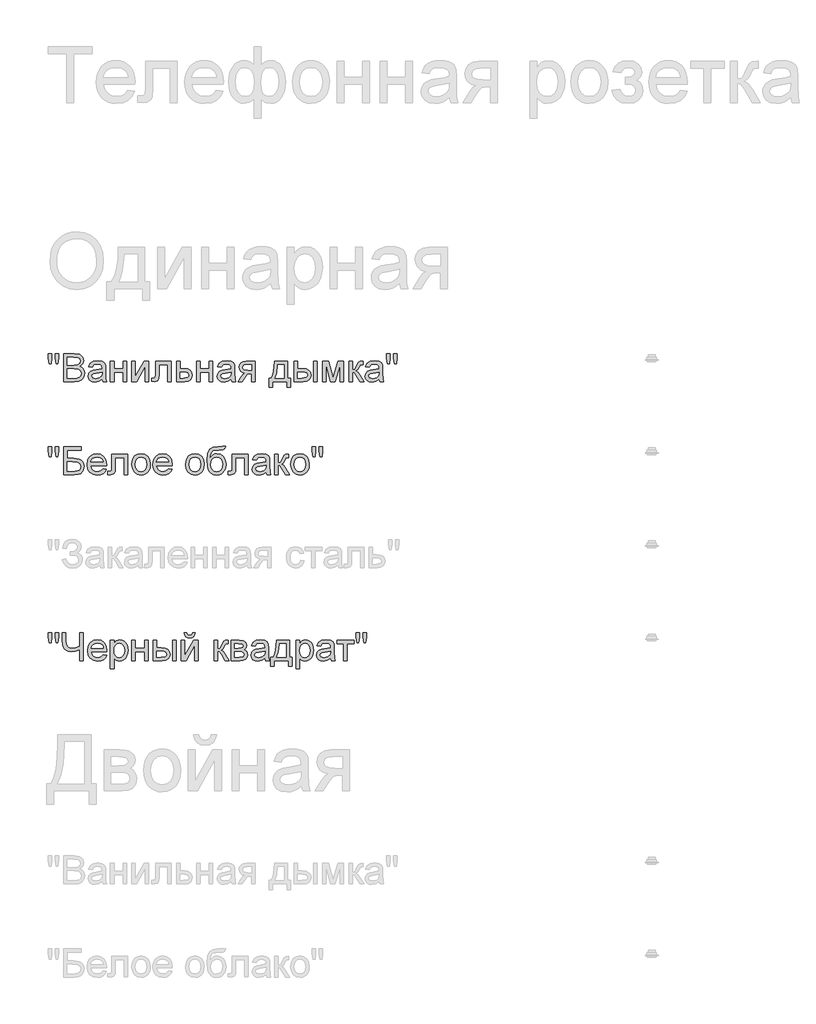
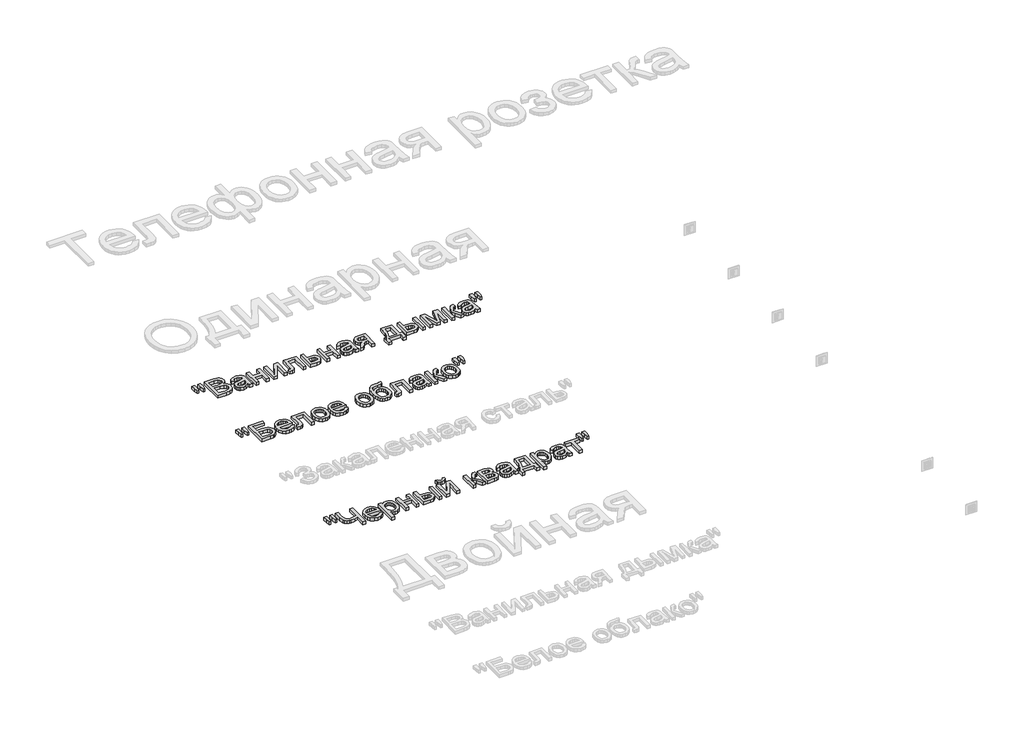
# One storey, part 143 of 168: 3 proxies.
"""IFC4 building model written with IfcOpenShell, lengths in millimetres."""

from ifc_helpers import new_model, si_unit, origin, origin_with_axes, place, context, project, spatial, polyline, outline, extrude, element, save

model = new_model("IFC4")

# Units and contexts
model_context = context("Model", 3, world=origin())
ifc_project = project(units=[si_unit("LENGTHUNIT", "METRE", prefix="MILLI")], contexts=[model_context])

# Site, building, storey
site = spatial("IfcSite", under=ifc_project)
building = spatial("IfcBuilding", under=site)
storey = spatial("IfcBuildingStorey", under=building, Name="Этаж 01", Elevation=0.0)

# Proxies
placement = place(None, origin())
element("IfcBuildingElementProxy", 1, Name="150", ObjectType="150", at=placement, inside=storey, context=model_context, shape_type="SweptSolid", body=[
    extrude(outline(polyline([(77280.1485789, -21251.873446), (77275.550054, -21222.7739802), (77275.550054, -21197.7212163), (77294.3856121, -21197.7212163), (77294.3856121, -21222.7739802), (77290.2653338, -21251.873446), (77280.1485789, -21251.873446)])), origin_with_axes(), (0.0, 0.0, 1.0), 20.0),
    extrude(outline(polyline([(77317.7093306, -21251.873446), (77313.2211703, -21222.7739802), (77313.2211703, -21197.7212163), (77332.0567284, -21197.7212163), (77332.0567284, -21222.7739802), (77327.6421445, -21251.873446), (77317.7093306, -21251.873446)])), origin_with_axes(), (0.0, 0.0, 1.0), 20.0),
    extrude(outline(polyline([(77357.9556209, -21348.4056816), (77357.9556209, -21197.7212163), (77415.4555767, -21197.7212163), (77443.6169435, -21202.1541944), (77453.0807078, -21207.7781904), (77460.2452096, -21215.7842223), (77466.2600803, -21235.0612389), (77461.2017028, -21252.6643923), (77445.9162059, -21266.0001146), (77456.5893823, -21271.5735269), (77464.4758526, -21280.0532069), (77469.3456905, -21290.8781346), (77470.9689698, -21303.48729), (77466.5359918, -21323.7391938), (77455.5547142, -21338.160168), (77439.1655713, -21345.8121135), (77415.0141183, -21348.4056816), (77357.9556209, -21348.4056816)]), holes=[polyline([(77376.791179, -21258.9367803), (77411.1881456, -21258.9367803), (77431.2745025, -21257.3180996), (77443.3594261, -21250.3467358), (77447.4245221, -21238.0778712), (77443.6353376, -21225.7906126), (77432.7828187, -21218.5249432), (77408.5761834, -21216.5567745), (77376.791179, -21216.5567745), (77376.791179, -21258.9367803)]), polyline([(77376.791179, -21329.5701234), (77415.4187885, -21329.5701234), (77429.3983043, -21328.8343594), (77441.2257105, -21324.7324752), (77449.061597, -21316.3631598), (77452.1334117, -21303.671231), (77448.5281681, -21289.0295275), (77436.8479148, -21280.2923302), (77413.5793786, -21277.7723385), (77376.791179, -21277.7723385), (77376.791179, -21329.5701234)])]), origin_with_axes(), (0.0, 0.0, 1.0), 20.0),
    extrude(outline(polyline([(77565.1467606, -21334.279013), (77546.8814195, -21347.0445182), (77526.7030921, -21350.7601263), (77510.9623412, -21348.5252432), (77499.3510657, -21341.8205939), (77492.1911624, -21331.6394596), (77489.804528, -21318.975122), (77493.4097715, -21304.0759012), (77502.8827329, -21293.2601705), (77516.0713024, -21287.079753), (77532.3684748, -21284.2470616), (77565.036396, -21277.7723385), (77565.1467606, -21273.5784838), (77563.8499765, -21265.1723802), (77559.9596244, -21259.6725443), (77551.2592153, -21255.5890542), (77539.1375035, -21254.2278908), (77520.0812162, -21257.8515285), (77510.9945309, -21270.7090042), (77492.1589727, -21268.3545594), (77500.3075589, -21249.9604597), (77516.7150959, -21239.1815172), (77541.5655247, -21235.3923327), (77564.3926025, -21238.7400588), (77577.2868664, -21247.1461624), (77583.0626137, -21259.9300617), (77583.9823187, -21276.4111751), (77583.9823187, -21299.8452582), (77584.9388119, -21332.5683617), (77588.6912083, -21348.4056816), (77569.8556501, -21348.4056816), (77565.1467606, -21334.279013)]), holes=[polyline([(77565.1467606, -21296.6078966), (77534.7597078, -21302.383644), (77518.5545059, -21305.4370645), (77511.2152601, -21310.4034715), (77508.6400861, -21317.6507468), (77514.2502865, -21327.841078), (77530.7130058, -21331.9245682), (77549.7692932, -21327.4180137), (77562.0565518, -21316.5103126), (77565.036396, -21301.9421856), (77565.1467606, -21296.6078966)])]), origin_with_axes(), (0.0, 0.0, 1.0), 20.0),
    extrude(outline(polyline([(77609.8812112, -21237.7467774), (77628.7167693, -21237.7467774), (77628.7167693, -21280.1267833), (77678.1601095, -21280.1267833), (77678.1601095, -21237.7467774), (77696.9956676, -21237.7467774), (77696.9956676, -21348.4056816), (77678.1601095, -21348.4056816), (77678.1601095, -21298.9623414), (77628.7167693, -21298.9623414), (77628.7167693, -21348.4056816), (77609.8812112, -21348.4056816), (77609.8812112, -21237.7467774)])), origin_with_axes(), (0.0, 0.0, 1.0), 20.0),
    extrude(outline(polyline([(77725.2490049, -21237.7467774), (77744.084563, -21237.7467774), (77744.084563, -21322.1389071), (77790.364118, -21237.7467774), (77814.7179061, -21237.7467774), (77814.7179061, -21348.4056816), (77795.8823479, -21348.4056816), (77795.8823479, -21264.5285867), (77749.8970985, -21348.4056816), (77725.2490049, -21348.4056816), (77725.2490049, -21237.7467774)])), origin_with_axes(), (0.0, 0.0, 1.0), 20.0),
    extrude(outline(polyline([(77852.3890224, -21237.7467774), (77937.1490341, -21237.7467774), (77937.1490341, -21348.295317), (77918.3134759, -21348.295317), (77918.3134759, -21256.5823356), (77871.2245806, -21256.5823356), (77871.2245806, -21309.3734019), (77869.9553877, -21333.72719), (77862.9840239, -21344.0094917), (77846.5029105, -21348.4056816), (77831.1990195, -21347.4491884), (77831.1990195, -21329.5701234), (77839.6235172, -21329.5701234), (77848.1399854, -21328.4112951), (77851.5428938, -21324.7324752), (77852.3890224, -21308.3065441), (77852.3890224, -21237.7467774)])), origin_with_axes(), (0.0, 0.0, 1.0), 20.0),
    extrude(outline(polyline([(77965.4023713, -21237.7467774), (77984.2379295, -21237.7467774), (77984.2379295, -21277.7723385), (78005.9429672, -21277.7723385), (78024.7601312, -21280.1313818), (78038.6844648, -21287.2085117), (78047.2929034, -21298.433511), (78050.162383, -21313.2361628), (78047.7205663, -21326.7144394), (78040.395116, -21338.0865916), (78027.6985887, -21345.8259091), (78009.1435405, -21348.4056816), (77965.4023713, -21348.4056816), (77965.4023713, -21237.7467774)]), holes=[polyline([(77984.2379295, -21329.5701234), (78001.8226888, -21329.5701234), (78024.539402, -21325.615392), (78029.6299692, -21320.552416), (78031.3268249, -21313.272951), (78026.3052356, -21301.6846682), (78018.2348244, -21297.8770895), (78004.066769, -21296.6078966), (77984.2379295, -21296.6078966), (77984.2379295, -21329.5701234)])]), origin_with_axes(), (0.0, 0.0, 1.0), 20.0),
    extrude(outline(polyline([(78073.7068307, -21237.7467774), (78092.5423889, -21237.7467774), (78092.5423889, -21280.1267833), (78141.985729, -21280.1267833), (78141.985729, -21237.7467774), (78160.8212872, -21237.7467774), (78160.8212872, -21348.4056816), (78141.985729, -21348.4056816), (78141.985729, -21298.9623414), (78092.5423889, -21298.9623414), (78092.5423889, -21348.4056816), (78073.7068307, -21348.4056816), (78073.7068307, -21237.7467774)])), origin_with_axes(), (0.0, 0.0, 1.0), 20.0),
    extrude(outline(polyline([(78259.7079675, -21334.279013), (78241.4426264, -21347.0445182), (78221.264299, -21350.7601263), (78205.5235481, -21348.5252432), (78193.9122726, -21341.8205939), (78186.7523693, -21331.6394596), (78184.3657349, -21318.975122), (78187.9709784, -21304.0759012), (78197.4439398, -21293.2601705), (78210.6325093, -21287.079753), (78226.9296817, -21284.2470616), (78259.5976029, -21277.7723385), (78259.7079675, -21273.5784838), (78258.4111834, -21265.1723802), (78254.5208313, -21259.6725443), (78245.8204221, -21255.5890542), (78233.6987104, -21254.2278908), (78214.6424231, -21257.8515285), (78205.5557378, -21270.7090042), (78186.7201796, -21268.3545594), (78194.8687658, -21249.9604597), (78211.2763028, -21239.1815172), (78236.1267316, -21235.3923327), (78258.9538094, -21238.7400588), (78271.8480733, -21247.1461624), (78277.6238206, -21259.9300617), (78278.5435256, -21276.4111751), (78278.5435256, -21299.8452582), (78279.5000188, -21332.5683617), (78283.2524152, -21348.4056816), (78264.416857, -21348.4056816), (78259.7079675, -21334.279013)]), holes=[polyline([(78259.7079675, -21296.6078966), (78229.3209147, -21302.383644), (78213.1157128, -21305.4370645), (78205.776467, -21310.4034715), (78203.201293, -21317.6507468), (78208.8114934, -21327.841078), (78225.2742127, -21331.9245682), (78244.3305001, -21327.4180137), (78256.6177587, -21316.5103126), (78259.5976029, -21301.9421856), (78259.7079675, -21296.6078966)])]), origin_with_axes(), (0.0, 0.0, 1.0), 20.0),
    extrude(outline(polyline([(78389.2024298, -21237.7467774), (78389.2024298, -21348.4056816), (78370.3668716, -21348.4056816), (78370.3668716, -21306.0256757), (78360.1029639, -21306.0256757), (78346.1234481, -21308.4169087), (78332.9900609, -21324.4933519), (78317.9804755, -21348.4056816), (78296.2018614, -21348.4056816), (78315.1109959, -21318.1657816), (78323.4619172, -21307.3132627), (78331.1506509, -21302.4940086), (78318.2747811, -21298.5484742), (78309.224884, -21291.0528785), (78303.872201, -21281.0832765), (78302.0879733, -21269.7157228), (78304.5251915, -21256.8214589), (78311.8368462, -21246.6127335), (78323.7654199, -21239.9632664), (78340.0533952, -21237.7467774), (78389.2024298, -21237.7467774)]), holes=[polyline([(78370.3668716, -21256.5823356), (78345.5348369, -21256.5823356), (78332.7095509, -21257.672186), (78325.4300859, -21260.9417372), (78320.9235315, -21271.1504626), (78322.583599, -21278.32876), (78327.5638015, -21283.3089625), (78351.0898551, -21287.1901176), (78370.3668716, -21287.1901176), (78370.3668716, -21256.5823356)])]), origin_with_axes(), (0.0, 0.0, 1.0), 20.0),
    extrude(outline(polyline([(78492.7979996, -21237.7467774), (78563.4313427, -21237.7467774), (78563.4313427, -21329.5701234), (78577.5580113, -21329.5701234), (78577.5580113, -21379.0134636), (78558.7224531, -21379.0134636), (78558.7224531, -21348.4056816), (78481.0257758, -21348.4056816), (78481.0257758, -21379.0134636), (78462.1902176, -21379.0134636), (78462.1902176, -21329.5701234), (78473.9624415, -21329.5701234), (78482.5202964, -21314.105284), (78488.5121744, -21293.6464466), (78492.7979996, -21237.7467774)]), holes=[polyline([(78509.279113, -21256.5823356), (78504.864529, -21299.4957703), (78495.1524444, -21329.5701234), (78544.5957845, -21329.5701234), (78544.5957845, -21256.5823356), (78509.279113, -21256.5823356)])]), origin_with_axes(), (0.0, 0.0, 1.0), 20.0),
    extrude(outline(polyline([(78702.3435841, -21237.7467774), (78721.1791422, -21237.7467774), (78721.1791422, -21348.4056816), (78702.3435841, -21348.4056816), (78702.3435841, -21237.7467774)])), origin_with_axes(), (0.0, 0.0, 1.0), 20.0),
    extrude(outline(polyline([(78598.7480142, -21237.7467774), (78617.5835724, -21237.7467774), (78617.5835724, -21277.7723385), (78640.8705027, -21277.7723385), (78660.9982463, -21280.1313818), (78675.9112627, -21287.2085117), (78685.1405023, -21298.433511), (78688.2169154, -21313.2361628), (78685.637143, -21326.7144394), (78677.8978255, -21338.0865916), (78664.4931253, -21345.8259091), (78644.9172046, -21348.4056816), (78598.7480142, -21348.4056816), (78598.7480142, -21237.7467774)]), holes=[polyline([(78617.5835724, -21329.5701234), (78636.9341653, -21329.5701234), (78661.9133528, -21325.615392), (78667.5143562, -21320.552416), (78669.3813573, -21313.272951), (78663.8447333, -21301.6846682), (78654.9649816, -21297.8770895), (78639.3989747, -21296.6078966), (78617.5835724, -21296.6078966), (78617.5835724, -21329.5701234)])]), origin_with_axes(), (0.0, 0.0, 1.0), 20.0),
    extrude(outline(polyline([(78749.4324794, -21237.7467774), (78781.8428832, -21237.7467774), (78806.8220707, -21326.3327619), (78833.7510327, -21237.7467774), (78864.8002731, -21237.7467774), (78864.8002731, -21348.4056816), (78845.964715, -21348.4056816), (78845.964715, -21259.3046623), (78818.8886001, -21348.4056816), (78794.1669301, -21348.4056816), (78768.2680376, -21255.0372312), (78768.2680376, -21348.4056816), (78749.4324794, -21348.4056816), (78749.4324794, -21237.7467774)])), origin_with_axes(), (0.0, 0.0, 1.0), 20.0),
    extrude(outline(polyline([(78893.0536104, -21237.7467774), (78911.8891685, -21237.7467774), (78911.8891685, -21284.8356728), (78924.5075209, -21281.4511584), (78934.845005, -21261.7326835), (78943.4350496, -21244.7181412), (78951.0134187, -21239.1815172), (78964.7905994, -21237.7467774), (78968.395843, -21237.7467774), (78968.395843, -21256.6927002), (78963.3190714, -21256.5823356), (78954.1220216, -21258.5688983), (78947.6472984, -21270.9665216), (78940.0505352, -21284.3758203), (78929.4003515, -21290.9425139), (78941.2829399, -21298.2725627), (78952.9447992, -21313.7144094), (78973.1047325, -21348.4056816), (78951.6940004, -21348.4056816), (78931.9387373, -21314.4501734), (78922.0059234, -21300.0843815), (78911.8891685, -21296.6078966), (78911.8891685, -21348.4056816), (78893.0536104, -21348.4056816), (78893.0536104, -21237.7467774)])), origin_with_axes(), (0.0, 0.0, 1.0), 20.0),
    extrude(outline(polyline([(79055.5102994, -21334.279013), (79037.2449584, -21347.0445182), (79017.0666309, -21350.7601263), (79001.3258801, -21348.5252432), (78989.7146046, -21341.8205939), (78982.5547013, -21331.6394596), (78980.1680668, -21318.975122), (78983.7733104, -21304.0759012), (78993.2462717, -21293.2601705), (79006.4348413, -21287.079753), (79022.7320137, -21284.2470616), (79055.3999348, -21277.7723385), (79055.5102994, -21273.5784838), (79054.2135154, -21265.1723802), (79050.3231633, -21259.6725443), (79041.6227541, -21255.5890542), (79029.5010424, -21254.2278908), (79010.444755, -21257.8515285), (79001.3580697, -21270.7090042), (78982.5225116, -21268.3545594), (78990.6710978, -21249.9604597), (79007.0786348, -21239.1815172), (79031.9290635, -21235.3923327), (79054.7561413, -21238.7400588), (79067.6504053, -21247.1461624), (79073.4261526, -21259.9300617), (79074.3458576, -21276.4111751), (79074.3458576, -21299.8452582), (79075.3023508, -21332.5683617), (79079.0547471, -21348.4056816), (79060.219189, -21348.4056816), (79055.5102994, -21334.279013)]), holes=[polyline([(79055.5102994, -21296.6078966), (79025.1232466, -21302.383644), (79008.9180447, -21305.4370645), (79001.5787989, -21310.4034715), (78999.003625, -21317.6507468), (79004.6138254, -21327.841078), (79021.0765447, -21331.9245682), (79040.132832, -21327.4180137), (79052.4200907, -21316.5103126), (79055.3999348, -21301.9421856), (79055.5102994, -21296.6078966)])]), origin_with_axes(), (0.0, 0.0, 1.0), 20.0),
    extrude(outline(polyline([(79100.1343854, -21251.873446), (79095.5358605, -21222.7739802), (79095.5358605, -21197.7212163), (79114.3714187, -21197.7212163), (79114.3714187, -21222.7739802), (79110.2511403, -21251.873446), (79100.1343854, -21251.873446)])), origin_with_axes(), (0.0, 0.0, 1.0), 20.0),
    extrude(outline(polyline([(79137.6951372, -21251.873446), (79133.2069768, -21222.7739802), (79133.2069768, -21197.7212163), (79152.042535, -21197.7212163), (79152.042535, -21222.7739802), (79147.627951, -21251.873446), (79137.6951372, -21251.873446)])), origin_with_axes(), (0.0, 0.0, 1.0), 20.0),
])
element("IfcBuildingElementProxy", 2, Name="150", ObjectType="150", at=placement, inside=storey, context=model_context, shape_type="SweptSolid", body=[
    extrude(outline(polyline([(77280.1485789, -21751.873446), (77275.550054, -21722.7739802), (77275.550054, -21697.7212163), (77294.3856121, -21697.7212163), (77294.3856121, -21722.7739802), (77290.2653338, -21751.873446), (77280.1485789, -21751.873446)])), origin_with_axes(), (0.0, 0.0, 1.0), 20.0),
    extrude(outline(polyline([(77317.7093306, -21751.873446), (77313.2211703, -21722.7739802), (77313.2211703, -21697.7212163), (77332.0567284, -21697.7212163), (77332.0567284, -21722.7739802), (77327.6421445, -21751.873446), (77317.7093306, -21751.873446)])), origin_with_axes(), (0.0, 0.0, 1.0), 20.0),
    extrude(outline(polyline([(77357.9556209, -21697.7212163), (77452.1334117, -21697.7212163), (77452.1334117, -21716.5567745), (77376.791179, -21716.5567745), (77376.791179, -21761.2912251), (77412.0710624, -21761.2912251), (77443.157091, -21765.1171979), (77453.5589544, -21770.6446248), (77461.6615553, -21779.5749603), (77466.8762826, -21791.0712726), (77468.614525, -21804.2966303), (77463.6665122, -21825.7625448), (77448.8960501, -21842.0781113), (77435.6247071, -21846.823789), (77415.4555767, -21848.4056816), (77357.9556209, -21848.4056816), (77357.9556209, -21697.7212163)]), holes=[polyline([(77376.791179, -21829.5701234), (77417.1478339, -21829.5701234), (77431.4124583, -21828.015822), (77441.6119866, -21823.3529177), (77447.7372218, -21815.5814105), (77449.7789669, -21804.7013005), (77445.1068655, -21789.9492325), (77432.102237, -21782.0765578), (77403.7201411, -21780.1267833), (77376.791179, -21780.1267833), (77376.791179, -21829.5701234)])]), origin_with_axes(), (0.0, 0.0, 1.0), 20.0),
    extrude(outline(polyline([(77569.6349209, -21815.4434548), (77588.1025971, -21817.7978996), (77581.4485315, -21831.713036), (77570.8305374, -21842.1148995), (77556.4877381, -21848.5988196), (77538.6592569, -21850.7601263), (77516.5587461, -21847.0307226), (77499.5534008, -21835.8425114), (77488.710079, -21817.9220597), (77485.0956384, -21793.9959345), (77488.7468672, -21769.2650674), (77499.7005536, -21750.7698), (77516.4759726, -21739.2366995), (77537.5923991, -21735.3923327), (77558.0512366, -21739.2275025), (77574.3989927, -21750.7330118), (77585.1181544, -21769.191491), (77588.6912083, -21793.8855699), (77588.5808437, -21798.9623414), (77503.9311966, -21798.9623414), (77507.1915508, -21813.0614189), (77514.7653213, -21823.4264941), (77525.6960151, -21829.8000497), (77539.0271389, -21831.9245682), (77557.4948151, -21827.9882308), (77569.6349209, -21815.4434548)]), holes=[polyline([(77503.9311966, -21780.1267833), (77569.8556501, -21780.1267833), (77567.3080673, -21770.1755753), (77562.3140692, -21763.0570587), (77551.3327917, -21756.4351828), (77537.5188227, -21754.2278908), (77524.8222954, -21755.9891259), (77514.3238629, -21761.272831), (77507.0260039, -21769.5087892), (77503.9311966, -21780.1267833)])]), origin_with_axes(), (0.0, 0.0, 1.0), 20.0),
    extrude(outline(polyline([(77616.9445455, -21737.7467774), (77701.7045572, -21737.7467774), (77701.7045572, -21848.295317), (77682.868999, -21848.295317), (77682.868999, -21756.5823356), (77635.7801036, -21756.5823356), (77635.7801036, -21809.3734019), (77634.5109108, -21833.72719), (77627.539547, -21844.0094917), (77611.0584336, -21848.4056816), (77595.7545426, -21847.4491884), (77595.7545426, -21829.5701234), (77604.1790403, -21829.5701234), (77612.6955084, -21828.4112951), (77616.0984169, -21824.7324752), (77616.9445455, -21808.3065441), (77616.9445455, -21737.7467774)])), origin_with_axes(), (0.0, 0.0, 1.0), 20.0),
    extrude(outline(polyline([(77725.2490049, -21793.0762295), (77729.323298, -21766.3955878), (77741.5461773, -21747.6428031), (77756.6477332, -21738.4549503), (77774.7291332, -21735.3923327), (77794.516586, -21739.1217364), (77810.3217163, -21750.3099476), (77820.6821929, -21768.0740494), (77824.1356852, -21791.5311251), (77822.6089749, -21810.5598213), (77818.0288441, -21825.0451749), (77810.5286499, -21835.8930952), (77800.2417496, -21844.0094917), (77788.0234688, -21849.0724677), (77774.7291332, -21850.7601263), (77754.7025571, -21847.0445182), (77738.915821, -21835.8976937), (77728.6657089, -21817.7611114), (77725.2490049, -21793.0762295)]), holes=[polyline([(77744.084563, -21793.0394413), (77746.2642638, -21810.0861732), (77752.8033663, -21822.2308776), (77762.6442097, -21829.5011455), (77774.7291332, -21831.9245682), (77786.7588745, -21829.48735), (77796.5813237, -21822.1756953), (77803.1204262, -21809.8700426), (77805.300127, -21792.4508301), (77803.1066306, -21775.9007388), (77796.5261414, -21763.9215814), (77786.6898966, -21756.6513134), (77774.7291332, -21754.2278908), (77762.6442097, -21756.6421164), (77752.8033663, -21763.8847932), (77746.2642638, -21776.0019064), (77744.084563, -21793.0394413)])]), origin_with_axes(), (0.0, 0.0, 1.0), 20.0),
    extrude(outline(polyline([(77922.8016363, -21815.4434548), (77941.2693124, -21817.7978996), (77934.6152469, -21831.713036), (77923.9972528, -21842.1148995), (77909.6544535, -21848.5988196), (77891.8259723, -21850.7601263), (77869.7254614, -21847.0307226), (77852.7201162, -21835.8425114), (77841.8767944, -21817.9220597), (77838.2623538, -21793.9959345), (77841.9135826, -21769.2650674), (77852.867269, -21750.7698), (77869.642688, -21739.2366995), (77890.7591145, -21735.3923327), (77911.217952, -21739.2275025), (77927.5657081, -21750.7330118), (77938.2848698, -21769.191491), (77941.8579236, -21793.8855699), (77941.747559, -21798.9623414), (77857.0979119, -21798.9623414), (77860.3582661, -21813.0614189), (77867.9320367, -21823.4264941), (77878.8627305, -21829.8000497), (77892.1938543, -21831.9245682), (77910.6615304, -21827.9882308), (77922.8016363, -21815.4434548)]), holes=[polyline([(77857.0979119, -21780.1267833), (77923.0223655, -21780.1267833), (77920.4747827, -21770.1755753), (77915.4807846, -21763.0570587), (77904.499507, -21756.4351828), (77890.6855381, -21754.2278908), (77877.9890107, -21755.9891259), (77867.4905783, -21761.272831), (77860.1927192, -21769.5087892), (77857.0979119, -21780.1267833)])]), origin_with_axes(), (0.0, 0.0, 1.0), 20.0),
    extrude(outline(polyline([(78014.8457115, -21793.0762295), (78018.9200046, -21766.3955878), (78031.1428839, -21747.6428031), (78046.2444398, -21738.4549503), (78064.3258398, -21735.3923327), (78084.1132926, -21739.1217364), (78099.9184229, -21750.3099476), (78110.2788995, -21768.0740494), (78113.7323918, -21791.5311251), (78112.2056815, -21810.5598213), (78107.6255507, -21825.0451749), (78100.1253565, -21835.8930952), (78089.8384562, -21844.0094917), (78077.6201754, -21849.0724677), (78064.3258398, -21850.7601263), (78044.2992637, -21847.0445182), (78028.5125276, -21835.8976937), (78018.2624155, -21817.7611114), (78014.8457115, -21793.0762295)]), holes=[polyline([(78033.6812696, -21793.0394413), (78035.8609704, -21810.0861732), (78042.4000729, -21822.2308776), (78052.2409163, -21829.5011455), (78064.3258398, -21831.9245682), (78076.3555811, -21829.48735), (78086.1780303, -21822.1756953), (78092.7171328, -21809.8700426), (78094.8968336, -21792.4508301), (78092.7033372, -21775.9007388), (78086.122848, -21763.9215814), (78076.2866032, -21756.6513134), (78064.3258398, -21754.2278908), (78052.2409163, -21756.6421164), (78042.4000729, -21763.8847932), (78035.8609704, -21776.0019064), (78033.6812696, -21793.0394413)])]), origin_with_axes(), (0.0, 0.0, 1.0), 20.0),
    extrude(outline(polyline([(78212.6190721, -21695.3667716), (78229.1001855, -21695.3667716), (78224.2441431, -21710.0636573), (78214.6424231, -21715.3795521), (78191.576222, -21716.5567745), (78160.5085875, -21720.897782), (78153.3808738, -21726.5447707), (78148.5892108, -21734.8037215), (78144.560903, -21759.4150269), (78160.8764695, -21741.3888092), (78170.7954878, -21736.8914518), (78181.9009255, -21735.3923327), (78201.4998388, -21739.2045098), (78217.401538, -21750.6410414), (78227.9413572, -21768.5798871), (78231.4546302, -21791.8990071), (78229.7117893, -21809.8792396), (78224.4832664, -21824.3094109), (78207.9469707, -21843.8623389), (78196.6529935, -21849.0356795), (78181.9009255, -21850.7601263), (78164.9001788, -21848.5390388), (78152.1576662, -21841.8757762), (78142.7812738, -21831.7498242), (78135.8788879, -21819.1406689), (78131.6298508, -21800.1533594), (78130.2135052, -21770.8929452), (78133.786559, -21734.7531377), (78144.5057207, -21712.7124076), (78162.6377045, -21701.4690142), (78188.449225, -21697.7212163), (78209.4184987, -21697.2981521), (78212.6190721, -21695.3667716)]), holes=[polyline([(78212.6190721, -21791.3103959), (78210.577327, -21776.48935), (78204.4520918, -21764.6205572), (78194.6112484, -21756.8260574), (78181.4226789, -21754.2278908), (78167.6730893, -21756.9732102), (78157.473561, -21765.2091684), (78151.1551877, -21778.0344544), (78149.0490633, -21794.5477575), (78151.3759169, -21810.5552228), (78158.3564778, -21822.304454), (78168.7491442, -21829.5195396), (78181.3123143, -21831.9245682), (78193.9398638, -21829.1424606), (78203.937057, -21820.7961378), (78210.4485683, -21807.8604872), (78212.6190721, -21791.3103959)])]), origin_with_axes(), (0.0, 0.0, 1.0), 20.0),
    extrude(outline(polyline([(78264.416857, -21737.7467774), (78349.1768687, -21737.7467774), (78349.1768687, -21848.295317), (78330.3413105, -21848.295317), (78330.3413105, -21756.5823356), (78283.2524152, -21756.5823356), (78283.2524152, -21809.3734019), (78281.9832223, -21833.72719), (78275.0118585, -21844.0094917), (78258.5307451, -21848.4056816), (78243.2268541, -21847.4491884), (78243.2268541, -21829.5701234), (78251.6513518, -21829.5701234), (78260.16782, -21828.4112951), (78263.5707284, -21824.7324752), (78264.416857, -21808.3065441), (78264.416857, -21737.7467774)])), origin_with_axes(), (0.0, 0.0, 1.0), 20.0),
    extrude(outline(polyline([(78448.063549, -21834.279013), (78429.7982079, -21847.0445182), (78409.6198805, -21850.7601263), (78393.8791296, -21848.5252432), (78382.2678542, -21841.8205939), (78375.1079508, -21831.6394596), (78372.7213164, -21818.975122), (78376.3265599, -21804.0759012), (78385.7995213, -21793.2601705), (78398.9880908, -21787.079753), (78415.2852632, -21784.2470616), (78447.9531844, -21777.7723385), (78448.063549, -21773.5784838), (78446.766765, -21765.1723802), (78442.8764129, -21759.6725443), (78434.1760037, -21755.5890542), (78422.0542919, -21754.2278908), (78402.9980046, -21757.8515285), (78393.9113193, -21770.7090042), (78375.0757612, -21768.3545594), (78383.2243473, -21749.9604597), (78399.6318843, -21739.1815172), (78424.4823131, -21735.3923327), (78447.3093909, -21738.7400588), (78460.2036548, -21747.1461624), (78465.9794022, -21759.9300617), (78466.8991071, -21776.4111751), (78466.8991071, -21799.8452582), (78467.8556003, -21832.5683617), (78471.6079967, -21848.4056816), (78452.7724385, -21848.4056816), (78448.063549, -21834.279013)]), holes=[polyline([(78448.063549, -21796.6078966), (78417.6764962, -21802.383644), (78401.4712943, -21805.4370645), (78394.1320485, -21810.4034715), (78391.5568745, -21817.6507468), (78397.167075, -21827.841078), (78413.6297942, -21831.9245682), (78432.6860816, -21827.4180137), (78444.9733402, -21816.5103126), (78447.9531844, -21801.9421856), (78448.063549, -21796.6078966)])]), origin_with_axes(), (0.0, 0.0, 1.0), 20.0),
    extrude(outline(polyline([(78492.7979996, -21737.7467774), (78511.6335578, -21737.7467774), (78511.6335578, -21784.8356728), (78524.2519102, -21781.4511584), (78534.5893943, -21761.7326835), (78543.1794388, -21744.7181412), (78550.7578079, -21739.1815172), (78564.5349887, -21737.7467774), (78568.1402322, -21737.7467774), (78568.1402322, -21756.6927002), (78563.0634607, -21756.5823356), (78553.8664108, -21758.5688983), (78547.3916877, -21770.9665216), (78539.7949245, -21784.3758203), (78529.1447407, -21790.9425139), (78541.0273292, -21798.2725627), (78552.6891884, -21813.7144094), (78572.8491218, -21848.4056816), (78551.4383896, -21848.4056816), (78531.6831265, -21814.4501734), (78521.7503126, -21800.0843815), (78511.6335578, -21796.6078966), (78511.6335578, -21848.4056816), (78492.7979996, -21848.4056816), (78492.7979996, -21737.7467774)])), origin_with_axes(), (0.0, 0.0, 1.0), 20.0),
    extrude(outline(polyline([(78579.9124561, -21793.0762295), (78583.9867492, -21766.3955878), (78596.2096285, -21747.6428031), (78611.3111844, -21738.4549503), (78629.3925844, -21735.3923327), (78649.1800372, -21739.1217364), (78664.9851674, -21750.3099476), (78675.3456441, -21768.0740494), (78678.7991364, -21791.5311251), (78677.2724261, -21810.5598213), (78672.6922952, -21825.0451749), (78665.1921011, -21835.8930952), (78654.9052008, -21844.0094917), (78642.68692, -21849.0724677), (78629.3925844, -21850.7601263), (78609.3660083, -21847.0445182), (78593.5792722, -21835.8976937), (78583.3291601, -21817.7611114), (78579.9124561, -21793.0762295)]), holes=[polyline([(78598.7480142, -21793.0394413), (78600.927715, -21810.0861732), (78607.4668175, -21822.2308776), (78617.3076609, -21829.5011455), (78629.3925844, -21831.9245682), (78641.4223257, -21829.48735), (78651.2447749, -21822.1756953), (78657.7838774, -21809.8700426), (78659.9635782, -21792.4508301), (78657.7700818, -21775.9007388), (78651.1895926, -21763.9215814), (78641.3533478, -21756.6513134), (78629.3925844, -21754.2278908), (78617.3076609, -21756.6421164), (78607.4668175, -21763.8847932), (78600.927715, -21776.0019064), (78598.7480142, -21793.0394413)])]), origin_with_axes(), (0.0, 0.0, 1.0), 20.0),
    extrude(outline(polyline([(78699.8787747, -21751.873446), (78695.2802498, -21722.7739802), (78695.2802498, -21697.7212163), (78714.1158079, -21697.7212163), (78714.1158079, -21722.7739802), (78709.9955296, -21751.873446), (78699.8787747, -21751.873446)])), origin_with_axes(), (0.0, 0.0, 1.0), 20.0),
    extrude(outline(polyline([(78737.4395264, -21751.873446), (78732.9513661, -21722.7739802), (78732.9513661, -21697.7212163), (78751.7869242, -21697.7212163), (78751.7869242, -21722.7739802), (78747.3723403, -21751.873446), (78737.4395264, -21751.873446)])), origin_with_axes(), (0.0, 0.0, 1.0), 20.0),
])
element("IfcBuildingElementProxy", 3, Name="150", ObjectType="150", at=placement, inside=storey, context=model_context, shape_type="SweptSolid", body=[
    extrude(outline(polyline([(77280.1485789, -22751.873446), (77275.550054, -22722.7739802), (77275.550054, -22697.7212163), (77294.3856121, -22697.7212163), (77294.3856121, -22722.7739802), (77290.2653338, -22751.873446), (77280.1485789, -22751.873446)])), origin_with_axes(), (0.0, 0.0, 1.0), 20.0),
    extrude(outline(polyline([(77317.7093306, -22751.873446), (77313.2211703, -22722.7739802), (77313.2211703, -22697.7212163), (77332.0567284, -22697.7212163), (77332.0567284, -22722.7739802), (77327.6421445, -22751.873446), (77317.7093306, -22751.873446)])), origin_with_axes(), (0.0, 0.0, 1.0), 20.0),
    extrude(outline(polyline([(77463.9056355, -22848.4056816), (77445.0700773, -22848.4056816), (77445.0700773, -22788.0730344), (77420.0908899, -22796.2400147), (77398.4226404, -22798.9623414), (77383.7395502, -22797.0999388), (77370.886673, -22791.512731), (77360.926268, -22783.0606422), (77354.9205944, -22772.6035965), (77350.8922866, -22742.6028198), (77350.8922866, -22697.7212163), (77369.7278447, -22697.7212163), (77369.7278447, -22740.064434), (77371.990319, -22760.4313009), (77378.7777418, -22772.3828673), (77388.7381468, -22778.1908043), (77400.5195677, -22780.1267833), (77422.2521966, -22777.7907326), (77445.0700773, -22770.7825806), (77445.0700773, -22697.7212163), (77463.9056355, -22697.7212163), (77463.9056355, -22848.4056816)])), origin_with_axes(), (0.0, 0.0, 1.0), 20.0),
    extrude(outline(polyline([(77571.9893657, -22815.4434548), (77590.4570418, -22817.7978996), (77583.8029763, -22831.713036), (77573.1849822, -22842.1148995), (77558.8421829, -22848.5988196), (77541.0137017, -22850.7601263), (77518.9131908, -22847.0307226), (77501.9078456, -22835.8425114), (77491.0645238, -22817.9220597), (77487.4500832, -22793.9959345), (77491.101312, -22769.2650674), (77502.0549984, -22750.7698), (77518.8304174, -22739.2366995), (77539.9468439, -22735.3923327), (77560.4056814, -22739.2275025), (77576.7534375, -22750.7330118), (77587.4725992, -22769.191491), (77591.045653, -22793.8855699), (77590.9352884, -22798.9623414), (77506.2856413, -22798.9623414), (77509.5459955, -22813.0614189), (77517.1197661, -22823.4264941), (77528.0504599, -22829.8000497), (77541.3815837, -22831.9245682), (77559.8492598, -22827.9882308), (77571.9893657, -22815.4434548)]), holes=[polyline([(77506.2856413, -22780.1267833), (77572.2100949, -22780.1267833), (77569.6625121, -22770.1755753), (77564.668514, -22763.0570587), (77553.6872364, -22756.4351828), (77539.8732675, -22754.2278908), (77527.1767401, -22755.9891259), (77516.6783077, -22761.272831), (77509.3804486, -22769.5087892), (77506.2856413, -22780.1267833)])]), origin_with_axes(), (0.0, 0.0, 1.0), 20.0),
    extrude(outline(polyline([(77609.8812112, -22890.7856874), (77609.8812112, -22737.7467774), (77628.7167693, -22737.7467774), (77628.7167693, -22756.2144536), (77641.739792, -22740.5978629), (77659.3245513, -22735.3923327), (77672.0624654, -22737.2133485), (77683.2000928, -22742.6763962), (77692.268384, -22751.4503817), (77698.7982894, -22763.2042115), (77704.0590019, -22792.2301009), (77702.5736784, -22808.3387338), (77698.1177077, -22822.7459124), (77690.8336442, -22834.7204713), (77680.8640422, -22843.5312451), (77669.2527667, -22848.952906), (77657.043683, -22850.7601263), (77640.6545401, -22845.9224781), (77628.7167693, -22833.6904018), (77628.7167693, -22890.7856874), (77609.8812112, -22890.7856874)]), holes=[polyline([(77628.7167693, -22793.9591463), (77630.7539159, -22810.8449299), (77636.8653555, -22822.6539419), (77645.8830629, -22829.6069116), (77656.6390128, -22831.9245682), (77667.5697066, -22829.5241382), (77676.8173402, -22822.3228481), (77683.1219179, -22810.0815747), (77685.2234438, -22792.5611947), (77683.1725017, -22775.7673816), (77677.0196753, -22763.7928227), (77668.0157635, -22756.6191238), (77657.411565, -22754.2278908), (77646.7659797, -22756.7708751), (77637.4171785, -22764.399828), (77630.8918716, -22776.8756261), (77628.7167693, -22793.9591463)])]), origin_with_axes(), (0.0, 0.0, 1.0), 20.0),
    extrude(outline(polyline([(77725.2490049, -22737.7467774), (77744.084563, -22737.7467774), (77744.084563, -22780.1267833), (77793.5279032, -22780.1267833), (77793.5279032, -22737.7467774), (77812.3634613, -22737.7467774), (77812.3634613, -22848.4056816), (77793.5279032, -22848.4056816), (77793.5279032, -22798.9623414), (77744.084563, -22798.9623414), (77744.084563, -22848.4056816), (77725.2490049, -22848.4056816), (77725.2490049, -22737.7467774)])), origin_with_axes(), (0.0, 0.0, 1.0), 20.0),
    extrude(outline(polyline([(77944.2123684, -22737.7467774), (77963.0479266, -22737.7467774), (77963.0479266, -22848.4056816), (77944.2123684, -22848.4056816), (77944.2123684, -22737.7467774)])), origin_with_axes(), (0.0, 0.0, 1.0), 20.0),
    extrude(outline(polyline([(77840.6167986, -22737.7467774), (77859.4523567, -22737.7467774), (77859.4523567, -22777.7723385), (77882.739287, -22777.7723385), (77902.8670307, -22780.1313818), (77917.780047, -22787.2085117), (77927.0092866, -22798.433511), (77930.0856998, -22813.2361628), (77927.5059273, -22826.7144394), (77919.7666098, -22838.0865916), (77906.3619096, -22845.8259091), (77886.785989, -22848.4056816), (77840.6167986, -22848.4056816), (77840.6167986, -22737.7467774)]), holes=[polyline([(77859.4523567, -22829.5701234), (77878.8029497, -22829.5701234), (77903.7821371, -22825.615392), (77909.3831405, -22820.552416), (77911.2501416, -22813.272951), (77905.7135176, -22801.6846682), (77896.8337659, -22797.8770895), (77881.267759, -22796.6078966), (77859.4523567, -22796.6078966), (77859.4523567, -22829.5701234)])]), origin_with_axes(), (0.0, 0.0, 1.0), 20.0),
    extrude(outline(polyline([(77991.3012638, -22737.7467774), (78010.1368219, -22737.7467774), (78010.1368219, -22822.1389071), (78056.4163769, -22737.7467774), (78080.770165, -22737.7467774), (78080.770165, -22848.4056816), (78061.9346069, -22848.4056816), (78061.9346069, -22764.5285867), (78015.9493575, -22848.4056816), (77991.3012638, -22848.4056816), (77991.3012638, -22737.7467774)])), origin_with_axes(), (0.0, 0.0, 1.0), 20.0),
    extrude(outline(polyline([(78052.5168278, -22697.7212163), (78066.6434964, -22697.7212163), (78063.6038714, -22709.7831473), (78057.5016288, -22718.672096), (78048.6126801, -22724.1489392), (78037.2129368, -22725.9745536), (78024.8429047, -22724.1627347), (78015.2503817, -22718.7272783), (78008.6928851, -22709.8521251), (78005.4279324, -22697.7212163), (78019.554601, -22697.7212163), (78024.8521017, -22708.3346119), (78035.5206796, -22711.847885), (78047.219327, -22708.4449765), (78052.5168278, -22697.7212163)])), origin_with_axes(), (0.0, 0.0, 1.0), 20.0),
    extrude(outline(polyline([(78167.8846215, -22737.7467774), (78186.7201796, -22737.7467774), (78186.7201796, -22784.8356728), (78199.3385321, -22781.4511584), (78209.6760161, -22761.7326835), (78218.2660607, -22744.7181412), (78225.8444298, -22739.1815172), (78239.6216105, -22737.7467774), (78243.2268541, -22737.7467774), (78243.2268541, -22756.6927002), (78238.1500825, -22756.5823356), (78228.9530327, -22758.5688983), (78222.4783096, -22770.9665216), (78214.8815464, -22784.3758203), (78204.2313626, -22790.9425139), (78216.113951, -22798.2725627), (78227.7758103, -22813.7144094), (78247.9357436, -22848.4056816), (78226.5250115, -22848.4056816), (78206.7697484, -22814.4501734), (78196.8369345, -22800.0843815), (78186.7201796, -22796.6078966), (78186.7201796, -22848.4056816), (78167.8846215, -22848.4056816), (78167.8846215, -22737.7467774)])), origin_with_axes(), (0.0, 0.0, 1.0), 20.0),
    extrude(outline(polyline([(78259.7079675, -22737.7467774), (78301.2050565, -22737.7467774), (78323.9585579, -22740.2667691), (78336.7608514, -22749.5006072), (78342.1135344, -22765.5954445), (78338.8761728, -22778.6736494), (78329.1273, -22787.999458), (78341.7824406, -22798.2081833), (78346.8224239, -22815.9584896), (78343.6310476, -22830.3150845), (78336.0434815, -22840.4226423), (78324.0321343, -22846.4099217), (78307.569415, -22848.4056816), (78259.7079675, -22848.4056816), (78259.7079675, -22737.7467774)]), holes=[polyline([(78278.5435256, -22780.1267833), (78297.1583546, -22780.1267833), (78312.5174279, -22779.1702901), (78319.9854324, -22775.3443173), (78323.2779762, -22768.4281358), (78321.8340394, -22762.8087383), (78317.5022289, -22759.1942977), (78297.7469658, -22756.5823356), (78278.5435256, -22756.5823356), (78278.5435256, -22780.1267833)]), polyline([(78278.5435256, -22829.5701234), (78301.6465149, -22829.5701234), (78322.137542, -22826.167215), (78326.377382, -22821.5273033), (78327.9868658, -22814.4133852), (78324.7678983, -22805.345094), (78316.3801888, -22800.0659874), (78299.8071049, -22798.9623414), (78278.5435256, -22798.9623414), (78278.5435256, -22829.5701234)])]), origin_with_axes(), (0.0, 0.0, 1.0), 20.0),
    extrude(outline(polyline([(78441.0002147, -22834.279013), (78422.7348736, -22847.0445182), (78402.5565462, -22850.7601263), (78386.8157953, -22848.5252432), (78375.2045198, -22841.8205939), (78368.0446165, -22831.6394596), (78365.6579821, -22818.975122), (78369.2632256, -22804.0759012), (78378.736187, -22793.2601705), (78391.9247565, -22787.079753), (78408.2219289, -22784.2470616), (78440.8898501, -22777.7723385), (78441.0002147, -22773.5784838), (78439.7034307, -22765.1723802), (78435.8130786, -22759.6725443), (78427.1126694, -22755.5890542), (78414.9909576, -22754.2278908), (78395.9346703, -22757.8515285), (78386.847985, -22770.7090042), (78368.0124268, -22768.3545594), (78376.161013, -22749.9604597), (78392.56855, -22739.1815172), (78417.4189788, -22735.3923327), (78440.2460566, -22738.7400588), (78453.1403205, -22747.1461624), (78458.9160679, -22759.9300617), (78459.8357728, -22776.4111751), (78459.8357728, -22799.8452582), (78460.792266, -22832.5683617), (78464.5446624, -22848.4056816), (78445.7091042, -22848.4056816), (78441.0002147, -22834.279013)]), holes=[polyline([(78441.0002147, -22796.6078966), (78410.6131619, -22802.383644), (78394.40796, -22805.4370645), (78387.0687142, -22810.4034715), (78384.4935402, -22817.6507468), (78390.1037407, -22827.841078), (78406.5664599, -22831.9245682), (78425.6227473, -22827.4180137), (78437.9100059, -22816.5103126), (78440.8898501, -22801.9421856), (78441.0002147, -22796.6078966)])]), origin_with_axes(), (0.0, 0.0, 1.0), 20.0),
    extrude(outline(polyline([(78502.2157787, -22737.7467774), (78572.8491218, -22737.7467774), (78572.8491218, -22829.5701234), (78586.9757904, -22829.5701234), (78586.9757904, -22879.0134636), (78568.1402322, -22879.0134636), (78568.1402322, -22848.4056816), (78490.4435548, -22848.4056816), (78490.4435548, -22879.0134636), (78471.6079967, -22879.0134636), (78471.6079967, -22829.5701234), (78483.3802205, -22829.5701234), (78491.9380754, -22814.105284), (78497.9299534, -22793.6464466), (78502.2157787, -22737.7467774)]), holes=[polyline([(78518.6968921, -22756.5823356), (78514.2823081, -22799.4957703), (78504.5702235, -22829.5701234), (78554.0135636, -22829.5701234), (78554.0135636, -22756.5823356), (78518.6968921, -22756.5823356)])]), origin_with_axes(), (0.0, 0.0, 1.0), 20.0),
    extrude(outline(polyline([(78608.1657933, -22890.7856874), (78608.1657933, -22737.7467774), (78627.0013514, -22737.7467774), (78627.0013514, -22756.2144536), (78640.0243741, -22740.5978629), (78657.6091334, -22735.3923327), (78670.3470475, -22737.2133485), (78681.4846749, -22742.6763962), (78690.5529661, -22751.4503817), (78697.0828715, -22763.2042115), (78702.3435841, -22792.2301009), (78700.8582605, -22808.3387338), (78696.4022898, -22822.7459124), (78689.1182263, -22834.7204713), (78679.1486243, -22843.5312451), (78667.5373488, -22848.952906), (78655.3282651, -22850.7601263), (78638.9391222, -22845.9224781), (78627.0013514, -22833.6904018), (78627.0013514, -22890.7856874), (78608.1657933, -22890.7856874)]), holes=[polyline([(78627.0013514, -22793.9591463), (78629.038498, -22810.8449299), (78635.1499376, -22822.6539419), (78644.167645, -22829.6069116), (78654.9235949, -22831.9245682), (78665.8542887, -22829.5241382), (78675.1019223, -22822.3228481), (78681.4065, -22810.0815747), (78683.5080259, -22792.5611947), (78681.4570838, -22775.7673816), (78675.3042574, -22763.7928227), (78666.3003456, -22756.6191238), (78655.6961471, -22754.2278908), (78645.0505618, -22756.7708751), (78635.7017606, -22764.399828), (78629.1764537, -22776.8756261), (78627.0013514, -22793.9591463)])]), origin_with_axes(), (0.0, 0.0, 1.0), 20.0),
    extrude(outline(polyline([(78794.1669301, -22834.279013), (78775.901589, -22847.0445182), (78755.7232616, -22850.7601263), (78739.9825107, -22848.5252432), (78728.3712352, -22841.8205939), (78721.2113319, -22831.6394596), (78718.8246974, -22818.975122), (78722.429941, -22804.0759012), (78731.9029024, -22793.2601705), (78745.0914719, -22787.079753), (78761.3886443, -22784.2470616), (78794.0565655, -22777.7723385), (78794.1669301, -22773.5784838), (78792.870146, -22765.1723802), (78788.9797939, -22759.6725443), (78780.2793847, -22755.5890542), (78768.157673, -22754.2278908), (78749.1013856, -22757.8515285), (78740.0147004, -22770.7090042), (78721.1791422, -22768.3545594), (78729.3277284, -22749.9604597), (78745.7352654, -22739.1815172), (78770.5856942, -22735.3923327), (78793.412772, -22738.7400588), (78806.3070359, -22747.1461624), (78812.0827832, -22759.9300617), (78813.0024882, -22776.4111751), (78813.0024882, -22799.8452582), (78813.9589814, -22832.5683617), (78817.7113777, -22848.4056816), (78798.8758196, -22848.4056816), (78794.1669301, -22834.279013)]), holes=[polyline([(78794.1669301, -22796.6078966), (78763.7798773, -22802.383644), (78747.5746754, -22805.4370645), (78740.2354296, -22810.4034715), (78737.6602556, -22817.6507468), (78743.270456, -22827.841078), (78759.7331753, -22831.9245682), (78778.7894627, -22827.4180137), (78791.0767213, -22816.5103126), (78794.0565655, -22801.9421856), (78794.1669301, -22796.6078966)])]), origin_with_axes(), (0.0, 0.0, 1.0), 20.0),
    extrude(outline(polyline([(78829.4836016, -22737.7467774), (78918.9525028, -22737.7467774), (78918.9525028, -22756.5823356), (78883.6358313, -22756.5823356), (78883.6358313, -22848.4056816), (78864.8002731, -22848.4056816), (78864.8002731, -22756.5823356), (78829.4836016, -22756.5823356), (78829.4836016, -22737.7467774)])), origin_with_axes(), (0.0, 0.0, 1.0), 20.0),
    extrude(outline(polyline([(78935.3232516, -22751.873446), (78930.7247267, -22722.7739802), (78930.7247267, -22697.7212163), (78949.5602848, -22697.7212163), (78949.5602848, -22722.7739802), (78945.4400065, -22751.873446), (78935.3232516, -22751.873446)])), origin_with_axes(), (0.0, 0.0, 1.0), 20.0),
    extrude(outline(polyline([(78972.8840033, -22751.873446), (78968.395843, -22722.7739802), (78968.395843, -22697.7212163), (78987.2314011, -22697.7212163), (78987.2314011, -22722.7739802), (78982.8168172, -22751.873446), (78972.8840033, -22751.873446)])), origin_with_axes(), (0.0, 0.0, 1.0), 20.0),
])

save(model, "model.ifc")
